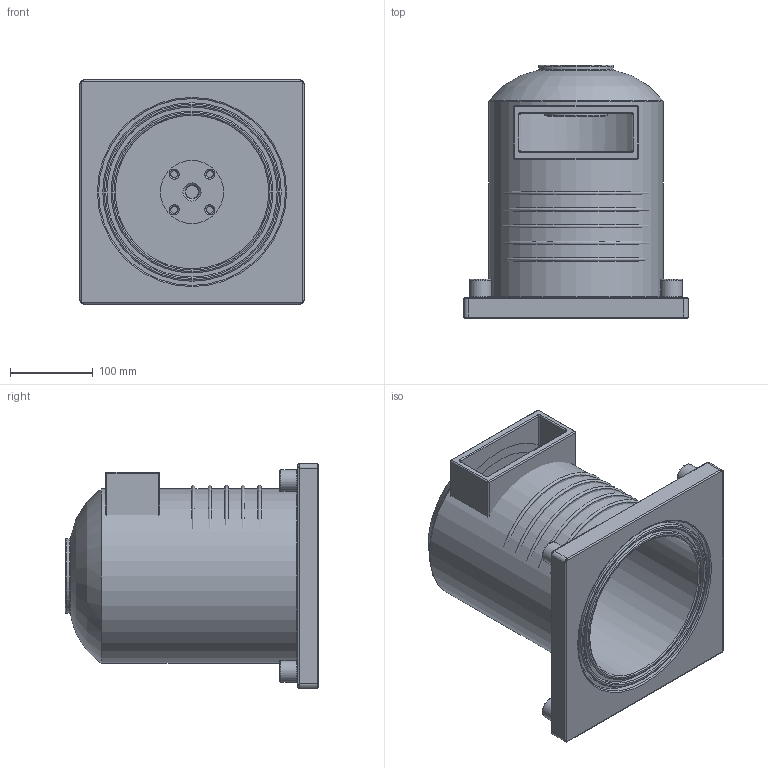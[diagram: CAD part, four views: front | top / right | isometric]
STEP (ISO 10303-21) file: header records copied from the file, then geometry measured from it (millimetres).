
FILE_DESCRIPTION(('STEP AP214'), '1');
FILE_NAME('ﾄ-ﾗﾝﾀﾇ-5-75-4000-ﾑ_25.12.2019 V16', '', ('UNSPECIFIED'), ('UNSPECIFIED'), 'ASCON STEP Converter 1.3', 'ASCON Math Kernel', '');
FILE_SCHEMA(('AUTOMOTIVE_DESIGN { 1 0 10303 214 3 1 1}'));
Length unit declared in the file: millimetre
Bounding box: 270 x 305.03 x 270 mm (x, y, z)
Volume: 4422034.8 mm3; surface area: 601784.4 mm2
Topology: 11 solids, 11 shells, 176 faces, 358 edges, 210 vertices
Faces by surface type: cylinder 64, plane 55, torus 31, bspline 12, cone 10, sphere 4
Full cylindrical faces by diameter (mm): 8.376 x12, 15.294 x1, 26 x4, 76 x1, 90 x1, 185 x1, 195 x1, 205 x1, 210 x1, 215 x1, 225 x1
Entity records: 9294 total; most frequent: CARTESIAN_POINT 4406, DIRECTION 702, ORIENTED_EDGE 586, AXIS2_PLACEMENT_3D 316, EDGE_CURVE 293, EDGE_LOOP 261, VERTEX_POINT 210, COLOUR_RGB 187
